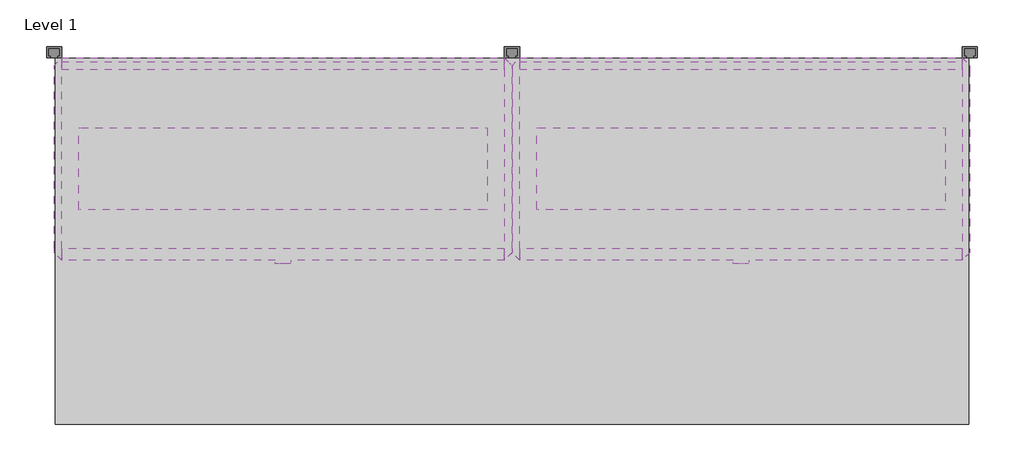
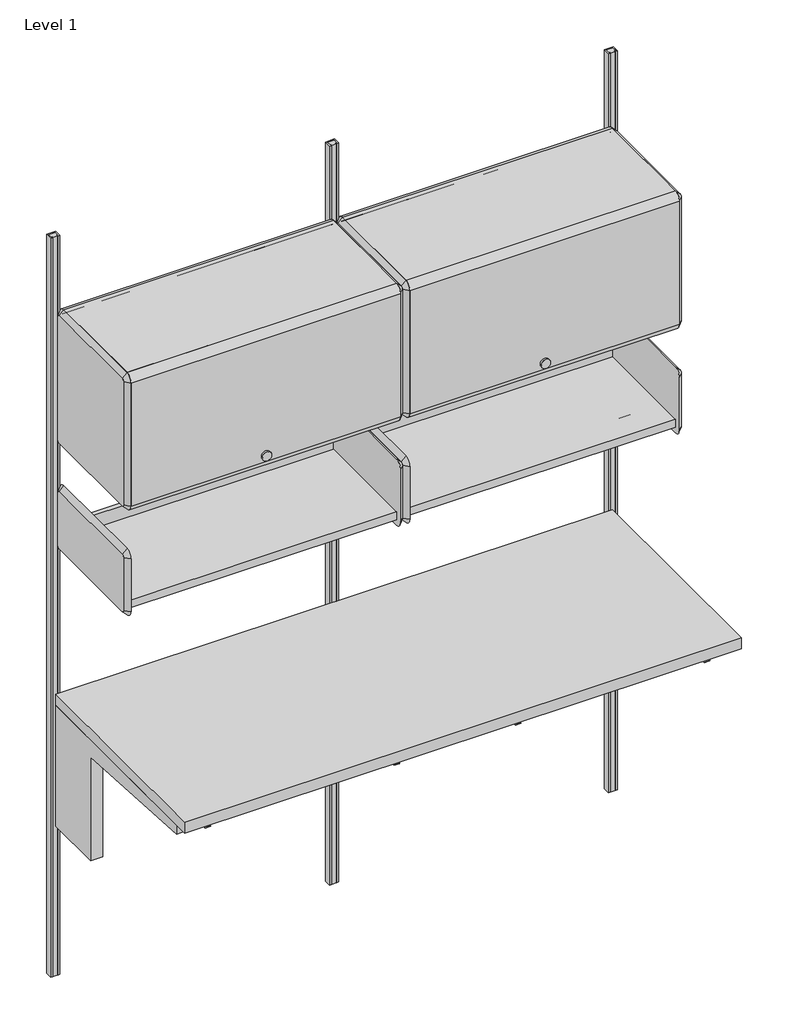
# One storey: 11 furniture elements, 2 light fixtures.
"""IFC4 building model written with IfcOpenShell, lengths in millimetres."""

from ifc_helpers import new_model, si_unit, origin, place, context, project, spatial, transform, mapped, element, save
from components import furniture_f2a341e6, furniture_a8f42cb3, furniture_dd3e20e4, furniture_48dc0a6c, furniture_10db817a, furniture_84h_ea425779, light_fixture_30w_for_action_office_7d6e6015

model = new_model("IFC4")

# Units and contexts
model_context = context("Model", 3, world=origin())
ifc_project = project(units=[si_unit("LENGTHUNIT", "METRE", prefix="MILLI")], contexts=[model_context])

# Site, building, storey
site = spatial("IfcSite", under=ifc_project)
building = spatial("IfcBuilding", under=site)
storey = spatial("IfcBuildingStorey", under=building, Name="Level 1", Elevation=0.0)

# Furniture
placement = place(None, origin())
furniture_shape = furniture_f2a341e6(model_context)
element("IfcFurniture", 1, ObjectType="HermanMiller_CoStruc_C2141_Heavy-DutyWorkSurface : 24D x 60W Lam", at=placement, inside=storey, context=model_context, shape_type="MappedRepresentation", body=[
    mapped(furniture_shape, transform((304.8, -196.85, 0.0), x_axis=(1.0, 0.0, 0.0), y_axis=(0.0, 1.0, 0.0), z_axis=(0.0, 0.0, 1.0))),
])
furniture_2_shape = furniture_a8f42cb3(model_context)
element("IfcFurniture", 2, ObjectType="HermanMiller_ActionOffice_A3220_B-StyleStorageDisplay : Shelf 13D x 30W", at=placement, inside=storey, context=model_context, shape_type="MappedRepresentation", body=[
    mapped(furniture_2_shape, transform((1266.9420045, -200.025, 0.0), x_axis=(1.0, 0.0, 0.0), y_axis=(0.0, 1.0, 0.0), z_axis=(0.0, 0.0, 1.0))),
])
element("IfcFurniture", 3, ObjectType="HermanMiller_ActionOffice_A3220_B-StyleStorageDisplay : Shelf 13D x 30W", at=placement, inside=storey, context=model_context, shape_type="MappedRepresentation", body=[
    mapped(furniture_2_shape, transform((504.9420045, -200.025, 0.0), x_axis=(1.0, 0.0, 0.0), y_axis=(0.0, 1.0, 0.0), z_axis=(0.0, 0.0, 1.0))),
])
furniture_3_shape = furniture_dd3e20e4(model_context)
element("IfcFurniture", 4, ObjectType="HermanMiller_CoStruc_C2140R_WorkSurfaceSupport_ComponentAdaptorReady : 14H x 24D x 60W", at=placement, inside=storey, context=model_context, shape_type="MappedRepresentation", body=[
    mapped(furniture_3_shape, transform((762.0, -196.85, 0.0), x_axis=(1.0, 0.0, 0.0), y_axis=(0.0, 1.0, 0.0), z_axis=(0.0, 0.0, 1.0))),
])
furniture_4_shape = furniture_48dc0a6c(model_context)
element("IfcFurniture", 5, ObjectType="HermanMiller_ActionOffice_B-StyleFlipperDoor : Paint 15-1/2H x 13D x 30W", at=placement, inside=storey, context=model_context, shape_type="MappedRepresentation", body=[
    mapped(furniture_4_shape, transform((381.0, -200.025, 457.2), x_axis=(1.0, 0.0, 0.0), y_axis=(0.0, 1.0, 0.0), z_axis=(0.0, 0.0, 1.0))),
])
element("IfcFurniture", 6, ObjectType="HermanMiller_ActionOffice_B-StyleFlipperDoor : Paint 15-1/2H x 13D x 30W", at=placement, inside=storey, context=model_context, shape_type="MappedRepresentation", body=[
    mapped(furniture_4_shape, transform((1143.0, -200.025, 457.2), x_axis=(1.0, 0.0, 0.0), y_axis=(0.0, 1.0, 0.0), z_axis=(0.0, 0.0, 1.0))),
])
furniture_5_shape = furniture_10db817a(model_context)
element("IfcFurniture", 7, ObjectType="HermanMiller_CoStruc_B-StyleShelf : 15-1/2H x 13D x 30W", at=placement, inside=storey, context=model_context, shape_type="MappedRepresentation", body=[
    mapped(furniture_5_shape, transform((1266.9420045, -200.025, 457.2), x_axis=(1.0, 0.0, 0.0), y_axis=(0.0, 1.0, 0.0), z_axis=(0.0, 0.0, 1.0))),
])
element("IfcFurniture", 8, ObjectType="HermanMiller_CoStruc_B-StyleShelf : 15-1/2H x 13D x 30W", at=placement, inside=storey, context=model_context, shape_type="MappedRepresentation", body=[
    mapped(furniture_5_shape, transform((504.9420045, -200.025, 457.2), x_axis=(1.0, 0.0, 0.0), y_axis=(0.0, 1.0, 0.0), z_axis=(0.0, 0.0, 1.0))),
])
furniture_84h_shape = furniture_84h_ea425779(model_context)
element("IfcFurniture", 9, ObjectType="HermanMiller_ActionOffice_AO213_WallStrip : 84H", at=placement, inside=storey, context=model_context, shape_type="MappedRepresentation", body=[
    mapped(furniture_84h_shape, transform((1523.9928164, 0.0, 0.0), x_axis=(1.0, 0.0, 0.0), y_axis=(0.0, 1.0, 0.0), z_axis=(0.0, 0.0, 1.0))),
])
element("IfcFurniture", 10, ObjectType="HermanMiller_ActionOffice_AO213_WallStrip : 84H", at=placement, inside=storey, context=model_context, shape_type="MappedRepresentation", body=[
    mapped(furniture_84h_shape, transform((762.0, 0.0, 0.0), x_axis=(1.0, 0.0, 0.0), y_axis=(0.0, 1.0, 0.0), z_axis=(0.0, 0.0, 1.0))),
])
element("IfcFurniture", 11, ObjectType="HermanMiller_ActionOffice_AO213_WallStrip : 84H", at=placement, inside=storey, context=model_context, shape_type="MappedRepresentation", body=[
    mapped(furniture_84h_shape, transform((0.0, 0.0, 0.0), x_axis=(1.0, 0.0, 0.0), y_axis=(0.0, 1.0, 0.0), z_axis=(0.0, 0.0, 1.0))),
])

# Light fixtures
light_fixture_30w_for_action_office_shape = light_fixture_30w_for_action_office_7d6e6015(model_context)
element("IfcLightFixture", 12, ObjectType="HermanMiller_SupplementalProducts_G6170_EUnderShelfLEDTaskLight : 30W for Action Office", at=placement, inside=storey, context=model_context, shape_type="MappedRepresentation", body=[
    mapped(light_fixture_30w_for_action_office_shape, transform((381.0, -203.2, 0.0), x_axis=(1.0, 0.0, 0.0), y_axis=(0.0, 1.0, 0.0), z_axis=(0.0, 0.0, 1.0))),
])
element("IfcLightFixture", 13, ObjectType="HermanMiller_SupplementalProducts_G6170_EUnderShelfLEDTaskLight : 30W for Action Office", at=placement, inside=storey, context=model_context, shape_type="MappedRepresentation", body=[
    mapped(light_fixture_30w_for_action_office_shape, transform((1143.0, -203.2, 0.0), x_axis=(1.0, 0.0, 0.0), y_axis=(0.0, 1.0, 0.0), z_axis=(0.0, 0.0, 1.0))),
])

save(model, "model.ifc")
